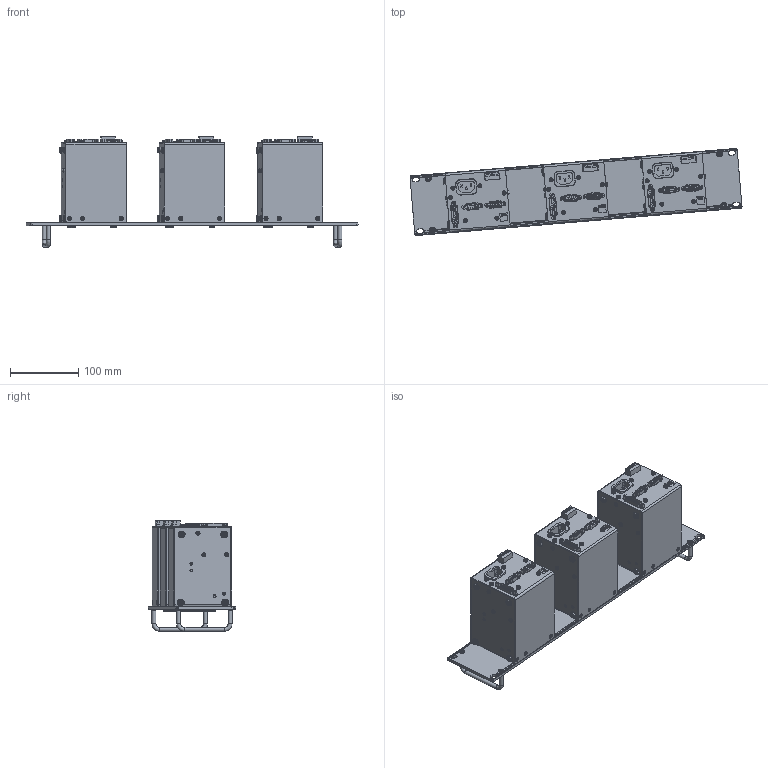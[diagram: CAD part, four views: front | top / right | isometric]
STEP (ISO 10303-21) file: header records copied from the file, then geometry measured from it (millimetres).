
FILE_DESCRIPTION(/* description */ (''),/* implementation_level */ '2;1');
FILE_NAME(/* name */ 'A:\Data\PSC232\step file\RA19-3PSC232.stp',/* time_stamp */ '2021-01-04T16:49:27+01:00',/* author */ ('Delta'),/* organization */ (''),/* preprocessor_version */ 'ST-DEVELOPER v17.2',/* originating_system */ 'Autodesk Inventor 2019',/* authorisation */ '');
FILE_SCHEMA (('AUTOMOTIVE_DESIGN { 1 0 10303 214 3 1 1 }'));
Products named in the file (1): AssemblyRA19-3PSC232_Shrinkwrap_1
Bounding box: 487.88 x 128.06 x 162.75 mm (x, y, z)
Volume: 2854869.1 mm3; surface area: 265071.9 mm2
Topology: 1 solids, 1 shells, 4032 faces, 9375 edges, 5706 vertices
Faces by surface type: plane 2758, cylinder 633, cone 462, torus 149, bspline 24, sphere 6
Full cylindrical faces by diameter (mm): 0.9 x27, 1 x45, 1.1 x27, 2.156 x18, 2.459 x12, 2.75 x18, 2.9 x6, 3.2 x24, 3.5 x15, 4 x8, 4.14 x12, 4.2 x4, 4.3 x12, 4.5 x4, 5.5 x15, 5.8 x3, 6 x99, 7 x3, 10 x12
Entity records: 116534 total; most frequent: CARTESIAN_POINT 21634, DIRECTION 19262, ORIENTED_EDGE 18586, EDGE_CURVE 9293, AXIS2_PLACEMENT_3D 6918, VERTEX_POINT 5706, LINE 5426, VECTOR 5426
